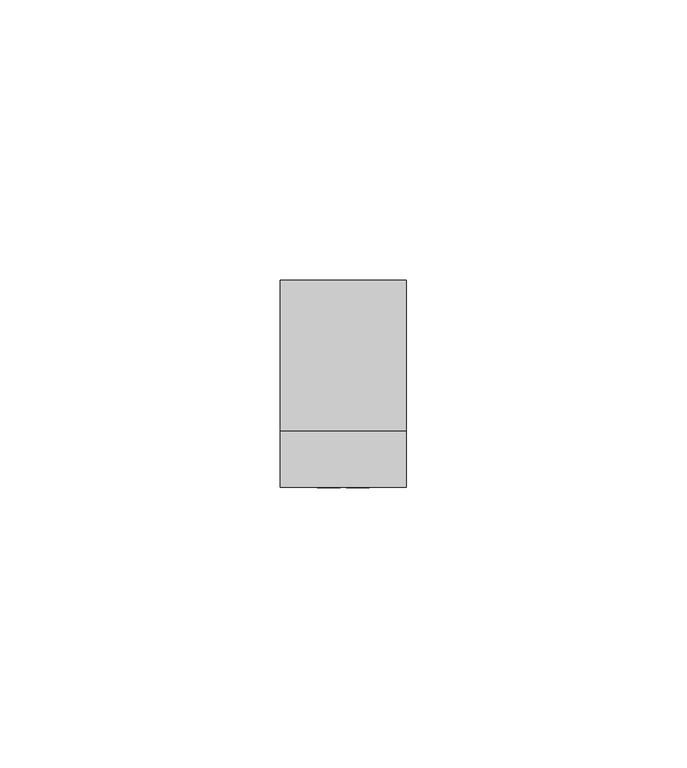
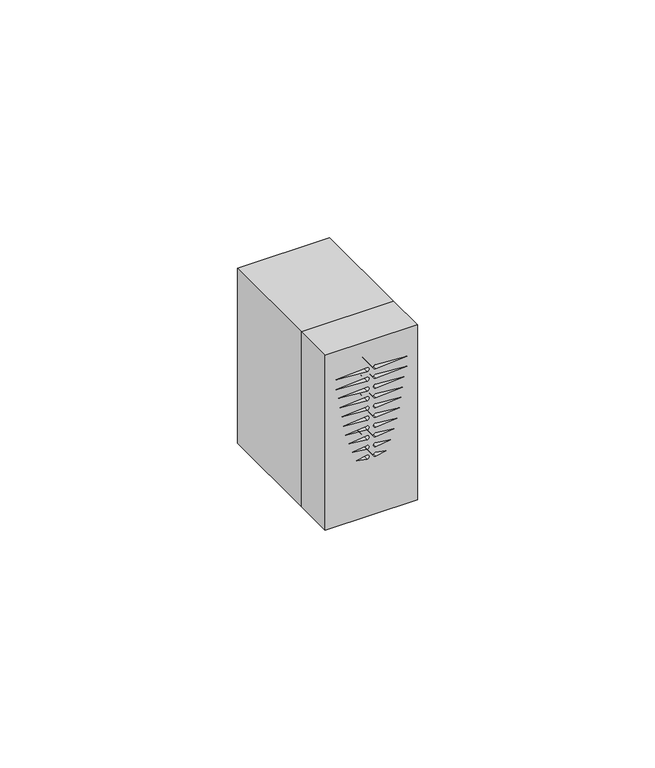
"""IFC4 building model written with IfcOpenShell, lengths in millimetres: proxy geometry."""

from ifc_helpers import new_model, si_unit, point, frame, frame_2d, origin, place, context, project, spatial, polyline, circle_curve, trimmed, segment, composite_curve, outline, extrude, source, transform, mapped, element, save


def electrical_fixtures_828bd1fc(model_context):
    return source(origin(), model_context, "Body", "SweptSolid", [
        extrude(outline(polyline([(-22.45, 22.4), (22.45, 22.4), (22.45, 0.0), (-22.45, 0.0), (-22.45, 22.4)]), holes=[composite_curve([segment(polyline([(15.2577896, 2.5771482), (15.7577896, 10.1397043)]), True, "CONTINUOUS"), segment(trimmed(circle_curve(frame_2d((15.2577896, 10.1397043)), 0.5), [point((15.7577896, 10.1397043))], [point((14.7577896, 10.1397043))], True, "CARTESIAN"), True, "CONTINUOUS"), segment(polyline([(14.7577896, 10.1397043), (15.2577896, 2.5771482)]), True, "CONTINUOUS")], self_intersect=False), composite_curve([segment(polyline([(12.7577896, 2.5771482), (13.2577896, 10.1397043)]), True, "CONTINUOUS"), segment(trimmed(circle_curve(frame_2d((12.7577896, 10.1397043)), 0.5), [point((13.2577896, 10.1397043))], [point((12.2577896, 10.1397043))], True, "CARTESIAN"), True, "CONTINUOUS"), segment(polyline([(12.2577896, 10.1397043), (12.7577896, 2.5771482)]), True, "CONTINUOUS")], self_intersect=False), composite_curve([segment(polyline([(10.2577896, 3.2495232), (10.7577896, 10.1397043)]), True, "CONTINUOUS"), segment(trimmed(circle_curve(frame_2d((10.2577896, 10.1397043)), 0.5), [point((10.7577896, 10.1397043))], [point((9.7577896, 10.1397043))], True, "CARTESIAN"), True, "CONTINUOUS"), segment(polyline([(9.7577896, 10.1397043), (10.2577896, 3.2495232)]), True, "CONTINUOUS")], self_intersect=False), composite_curve([segment(polyline([(7.7577896, 3.6187825), (8.2577896, 10.1397043)]), True, "CONTINUOUS"), segment(trimmed(circle_curve(frame_2d((7.7577896, 10.1397043)), 0.5), [point((8.2577896, 10.1397043))], [point((7.2577896, 10.1397043))], True, "CARTESIAN"), True, "CONTINUOUS"), segment(polyline([(7.2577896, 10.1397043), (7.7577896, 3.6187825)]), True, "CONTINUOUS")], self_intersect=False), composite_curve([segment(polyline([(5.2577896, 4.0463459), (5.7577896, 10.1397043)]), True, "CONTINUOUS"), segment(trimmed(circle_curve(frame_2d((5.2577896, 10.1397043)), 0.5), [point((5.7577896, 10.1397043))], [point((4.7577896, 10.1397043))], True, "CARTESIAN"), True, "CONTINUOUS"), segment(polyline([(4.7577896, 10.1397043), (5.2577896, 4.0463459)]), True, "CONTINUOUS")], self_intersect=False), composite_curve([segment(polyline([(2.7577896, 4.3961704), (3.2577896, 10.1397043)]), True, "CONTINUOUS"), segment(trimmed(circle_curve(frame_2d((2.7577896, 10.1397043)), 0.5), [point((3.2577896, 10.1397043))], [point((2.2577896, 10.1397043))], True, "CARTESIAN"), True, "CONTINUOUS"), segment(polyline([(2.2577896, 10.1397043), (2.7577896, 4.3961704)]), True, "CONTINUOUS")], self_intersect=False), composite_curve([segment(polyline([(0.2577896, 4.940342), (0.7577896, 10.1397043)]), True, "CONTINUOUS"), segment(trimmed(circle_curve(frame_2d((0.2577896, 10.1397043)), 0.5), [point((0.7577896, 10.1397043))], [point((-0.2422104, 10.1397043))], True, "CARTESIAN"), True, "CONTINUOUS"), segment(polyline([(-0.2422104, 10.1397043), (0.2577896, 4.940342)]), True, "CONTINUOUS")], self_intersect=False), composite_curve([segment(polyline([(-2.2422104, 5.7371646), (-1.7422104, 10.1397043)]), True, "CONTINUOUS"), segment(trimmed(circle_curve(frame_2d((-2.2422104, 10.1397043)), 0.5), [point((-1.7422104, 10.1397043))], [point((-2.7422104, 10.1397043))], True, "CARTESIAN"), True, "CONTINUOUS"), segment(polyline([(-2.7422104, 10.1397043), (-2.2422104, 5.7371646)]), True, "CONTINUOUS")], self_intersect=False), composite_curve([segment(polyline([(-4.7422104, 6.5922913), (-4.2422104, 10.1397043)]), True, "CONTINUOUS"), segment(trimmed(circle_curve(frame_2d((-4.7422104, 10.1397043)), 0.5), [point((-4.2422104, 10.1397043))], [point((-5.2422104, 10.1397043))], True, "CARTESIAN"), True, "CONTINUOUS"), segment(polyline([(-5.2422104, 10.1397043), (-4.7422104, 6.5922913)]), True, "CONTINUOUS")], self_intersect=False), composite_curve([segment(polyline([(-7.2422104, 7.5771482), (-6.7422104, 10.1397043)]), True, "CONTINUOUS"), segment(trimmed(circle_curve(frame_2d((-7.2422104, 10.1397043)), 0.5), [point((-6.7422104, 10.1397043))], [point((-7.7422104, 10.1397043))], True, "CARTESIAN"), True, "CONTINUOUS"), segment(polyline([(-7.7422104, 10.1397043), (-7.2422104, 7.5771482)]), True, "CONTINUOUS")], self_intersect=False), composite_curve([segment(polyline([(15.2577896, 19.8228518), (14.7577896, 12.2602957)]), True, "CONTINUOUS"), segment(trimmed(circle_curve(frame_2d((15.2577896, 12.2602957)), 0.5), [point((14.7577896, 12.2602957))], [point((15.7577896, 12.2602957))], True, "CARTESIAN"), True, "CONTINUOUS"), segment(polyline([(15.7577896, 12.2602957), (15.2577896, 19.8228518)]), True, "CONTINUOUS")], self_intersect=False), composite_curve([segment(polyline([(12.7577896, 19.8228518), (12.2577896, 12.2602957)]), True, "CONTINUOUS"), segment(trimmed(circle_curve(frame_2d((12.7577896, 12.2602957)), 0.5), [point((12.2577896, 12.2602957))], [point((13.2577896, 12.2602957))], True, "CARTESIAN"), True, "CONTINUOUS"), segment(polyline([(13.2577896, 12.2602957), (12.7577896, 19.8228518)]), True, "CONTINUOUS")], self_intersect=False), composite_curve([segment(polyline([(10.2577896, 19.1504768), (9.7577896, 12.2602957)]), True, "CONTINUOUS"), segment(trimmed(circle_curve(frame_2d((10.2577896, 12.2602957)), 0.5), [point((9.7577896, 12.2602957))], [point((10.7577896, 12.2602957))], True, "CARTESIAN"), True, "CONTINUOUS"), segment(polyline([(10.7577896, 12.2602957), (10.2577896, 19.1504768)]), True, "CONTINUOUS")], self_intersect=False), composite_curve([segment(polyline([(7.7577896, 18.7812175), (7.2577896, 12.2602957)]), True, "CONTINUOUS"), segment(trimmed(circle_curve(frame_2d((7.7577896, 12.2602957)), 0.5), [point((7.2577896, 12.2602957))], [point((8.2577896, 12.2602957))], True, "CARTESIAN"), True, "CONTINUOUS"), segment(polyline([(8.2577896, 12.2602957), (7.7577896, 18.7812175)]), True, "CONTINUOUS")], self_intersect=False), composite_curve([segment(polyline([(5.2577896, 18.3536541), (4.7577896, 12.2602957)]), True, "CONTINUOUS"), segment(trimmed(circle_curve(frame_2d((5.2577896, 12.2602957)), 0.5), [point((4.7577896, 12.2602957))], [point((5.7577896, 12.2602957))], True, "CARTESIAN"), True, "CONTINUOUS"), segment(polyline([(5.7577896, 12.2602957), (5.2577896, 18.3536541)]), True, "CONTINUOUS")], self_intersect=False), composite_curve([segment(polyline([(2.7577896, 18.0038296), (2.2577896, 12.2602957)]), True, "CONTINUOUS"), segment(trimmed(circle_curve(frame_2d((2.7577896, 12.2602957)), 0.5), [point((2.2577896, 12.2602957))], [point((3.2577896, 12.2602957))], True, "CARTESIAN"), True, "CONTINUOUS"), segment(polyline([(3.2577896, 12.2602957), (2.7577896, 18.0038296)]), True, "CONTINUOUS")], self_intersect=False), composite_curve([segment(polyline([(0.2577896, 17.459658), (-0.2422104, 12.2602957)]), True, "CONTINUOUS"), segment(trimmed(circle_curve(frame_2d((0.2577896, 12.2602957)), 0.5), [point((-0.2422104, 12.2602957))], [point((0.7577896, 12.2602957))], True, "CARTESIAN"), True, "CONTINUOUS"), segment(polyline([(0.7577896, 12.2602957), (0.2577896, 17.459658)]), True, "CONTINUOUS")], self_intersect=False), composite_curve([segment(polyline([(-2.2422104, 16.6628354), (-2.7422104, 12.2602957)]), True, "CONTINUOUS"), segment(trimmed(circle_curve(frame_2d((-2.2422104, 12.2602957)), 0.5), [point((-2.7422104, 12.2602957))], [point((-1.7422104, 12.2602957))], True, "CARTESIAN"), True, "CONTINUOUS"), segment(polyline([(-1.7422104, 12.2602957), (-2.2422104, 16.6628354)]), True, "CONTINUOUS")], self_intersect=False), composite_curve([segment(polyline([(-4.7422104, 15.8077087), (-5.2422104, 12.2602957)]), True, "CONTINUOUS"), segment(trimmed(circle_curve(frame_2d((-4.7422104, 12.2602957)), 0.5), [point((-5.2422104, 12.2602957))], [point((-4.2422104, 12.2602957))], True, "CARTESIAN"), True, "CONTINUOUS"), segment(polyline([(-4.2422104, 12.2602957), (-4.7422104, 15.8077087)]), True, "CONTINUOUS")], self_intersect=False), composite_curve([segment(polyline([(-7.2422104, 14.8228518), (-7.7422104, 12.2602957)]), True, "CONTINUOUS"), segment(trimmed(circle_curve(frame_2d((-7.2422104, 12.2602957)), 0.5), [point((-7.7422104, 12.2602957))], [point((-6.7422104, 12.2602957))], True, "CARTESIAN"), True, "CONTINUOUS"), segment(polyline([(-6.7422104, 12.2602957), (-7.2422104, 14.8228518)]), True, "CONTINUOUS")], self_intersect=False)]), frame((0.0, -44.7, 0.0), z_axis=(0.0, 1.0, 0.0), x_axis=(0.0, 0.0, 1.0)), (0.0, 0.0, 1.0), 10.0),
        extrude(outline(polyline([(22.4, -7.8), (22.4, -34.7), (0.0, -34.7), (0.0, -7.8), (22.4, -7.8)])), frame((0.0, 0.0, -22.45), z_axis=(0.0, 0.0, 1.0), x_axis=(1.0, 0.0, 0.0)), (0.0, 0.0, 1.0), 44.9),
    ])


if __name__ == "__main__":
    model = new_model("IFC4")
    model_context = context("Model", 3, world=origin())
    ifc_project = project(units=[si_unit("LENGTHUNIT", "METRE", prefix="MILLI")], contexts=[model_context])
    site = spatial("IfcSite", under=ifc_project)
    building = spatial("IfcBuilding", under=site)
    placement = place(None, origin())
    electrical_fixtures_shape = electrical_fixtures_828bd1fc(model_context)
    element("IfcBuildingElementProxy", 1, Name="Electrical Fixtures", at=placement, inside=building, context=model_context, shape_type="MappedRepresentation", body=[
        mapped(electrical_fixtures_shape, transform((0.0, 0.0, 0.0), x_axis=(1.0, 0.0, 0.0), y_axis=(0.0, 1.0, 0.0), z_axis=(0.0, 0.0, 1.0))),
    ])
    save(model, "model.ifc")
